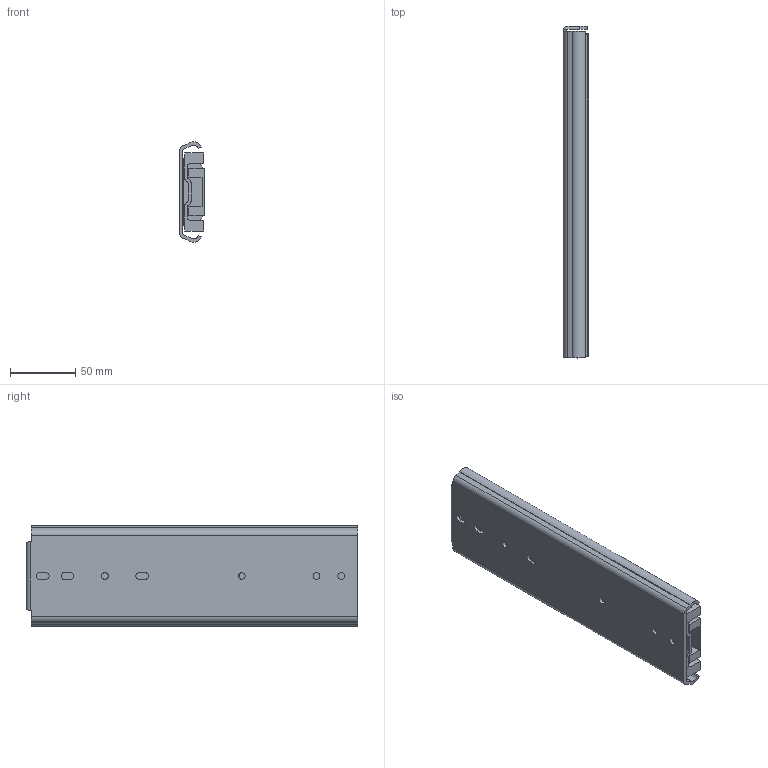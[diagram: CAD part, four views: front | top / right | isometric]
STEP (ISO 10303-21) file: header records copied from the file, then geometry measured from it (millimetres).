
FILE_DESCRIPTION(/* description */ ('Unknown'),/* implementation_level */ '2;1');
FILE_NAME(/* name */ '76J01-10 close',/* time_stamp */ '2024-07-26T14:40:42+08:00',/* author */ ('Unknown'),/* organization */ ('Unknown'),/* preprocessor_version */ 'ST-DEVELOPER v18.104',/* originating_system */ 'Solid Edge',/* authorisation */ 'Unknown');
FILE_SCHEMA (('AUTOMOTIVE_DESIGN {1 0 10303 214 3 1 1}'));
Length unit declared in the file: millimetre
Products named in the file (4): 76J01-10 close; 76J01 10 inch 內; 76J01 10 ¦Tœ; 76J01 10 嬪
Assembly tree (3 placements, depth 2):
  76J01-10 close
    76J01 10 inch 內
    76J01 10 ¦Tœ
    76J01 10 嬪
Bounding box: 19.3 x 254 x 76.76 mm (x, y, z)
Volume: 194653.2 mm3; surface area: 122859 mm2
Topology: 3 solids, 3 shells, 163 faces, 490 edges, 329 vertices
Faces by surface type: plane 94, cylinder 69
Full cylindrical faces by diameter (mm): 5.2 x7
Entity records: 5975 total; most frequent: CARTESIAN_POINT 965, ORIENTED_EDGE 952, DIRECTION 952, EDGE_CURVE 476, LINE 334, VECTOR 334, VERTEX_POINT 322, AXIS2_PLACEMENT_3D 309
